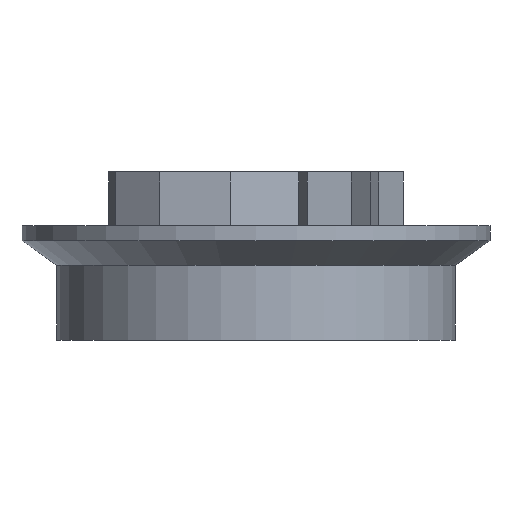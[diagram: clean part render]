
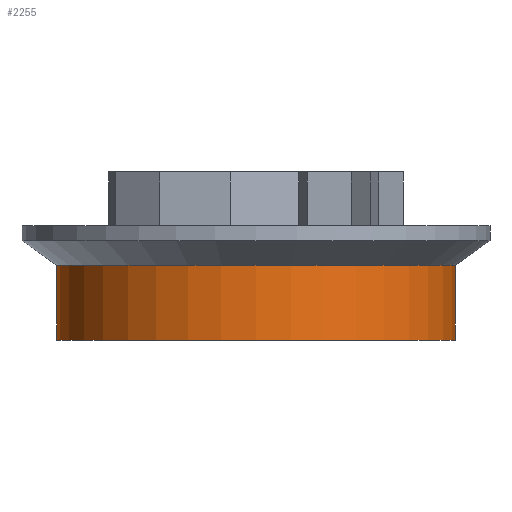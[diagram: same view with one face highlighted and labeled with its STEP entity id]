
A CAD part, front view. The second image highlights one B-rep face of the part: STEP entity #2255.
In plain terms, the highlighted cylindrical face has radius 20 mm (diameter 40 mm), a full revolution.
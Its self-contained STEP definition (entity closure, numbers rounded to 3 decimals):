
#1988 = PLANE('',#1989);
#1989 = AXIS2_PLACEMENT_3D('',#1990,#1991,#1992);
#1990 = CARTESIAN_POINT('',(0.,0.,0.));
#1991 = DIRECTION('',(0.,0.,-1.));
#1992 = DIRECTION('',(1.,0.,0.));
#2043 = CONICAL_SURFACE('',#2044,23.5,0.951);
#2044 = AXIS2_PLACEMENT_3D('',#2045,#2046,#2047);
#2045 = CARTESIAN_POINT('',(0.,0.,10.));
#2046 = DIRECTION('',(-0.,0.,1.));
#2047 = DIRECTION('',(1.,0.,0.));
#2081 = EDGE_CURVE('',#2082,#2082,#2084,.T.);
#2082 = VERTEX_POINT('',#2083);
#2083 = CARTESIAN_POINT('',(20.,0.,0.));
#2084 = SURFACE_CURVE('',#2085,(#2090,#2097),.PCURVE_S1.);
#2085 = CIRCLE('',#2086,20.);
#2086 = AXIS2_PLACEMENT_3D('',#2087,#2088,#2089);
#2087 = CARTESIAN_POINT('',(0.,0.,0.));
#2088 = DIRECTION('',(0.,0.,-1.));
#2089 = DIRECTION('',(1.,0.,0.));
#2090 = PCURVE('',#1988,#2091);
#2091 = DEFINITIONAL_REPRESENTATION('',(#2092),#2096);
#2092 = CIRCLE('',#2093,20.);
#2093 = AXIS2_PLACEMENT_2D('',#2094,#2095);
#2094 = CARTESIAN_POINT('',(0.,0.));
#2095 = DIRECTION('',(1.,0.));
#2096 = ( GEOMETRIC_REPRESENTATION_CONTEXT(2) 
PARAMETRIC_REPRESENTATION_CONTEXT() REPRESENTATION_CONTEXT('2D SPACE',''
  ) );
#2097 = PCURVE('',#2098,#2103);
#2098 = CYLINDRICAL_SURFACE('',#2099,20.);
#2099 = AXIS2_PLACEMENT_3D('',#2100,#2101,#2102);
#2100 = CARTESIAN_POINT('',(0.,0.,7.5));
#2101 = DIRECTION('',(0.,0.,-1.));
#2102 = DIRECTION('',(1.,0.,0.));
#2103 = DEFINITIONAL_REPRESENTATION('',(#2104),#2108);
#2104 = LINE('',#2105,#2106);
#2105 = CARTESIAN_POINT('',(0.,7.5));
#2106 = VECTOR('',#2107,1.);
#2107 = DIRECTION('',(1.,0.));
#2108 = ( GEOMETRIC_REPRESENTATION_CONTEXT(2) 
PARAMETRIC_REPRESENTATION_CONTEXT() REPRESENTATION_CONTEXT('2D SPACE',''
  ) );
#2209 = EDGE_CURVE('',#2210,#2210,#2212,.T.);
#2210 = VERTEX_POINT('',#2211);
#2211 = CARTESIAN_POINT('',(20.,0.,7.5));
#2212 = SURFACE_CURVE('',#2213,(#2218,#2225),.PCURVE_S1.);
#2213 = CIRCLE('',#2214,20.);
#2214 = AXIS2_PLACEMENT_3D('',#2215,#2216,#2217);
#2215 = CARTESIAN_POINT('',(0.,0.,7.5));
#2216 = DIRECTION('',(0.,0.,-1.));
#2217 = DIRECTION('',(1.,0.,0.));
#2218 = PCURVE('',#2043,#2219);
#2219 = DEFINITIONAL_REPRESENTATION('',(#2220),#2224);
#2220 = LINE('',#2221,#2222);
#2221 = CARTESIAN_POINT('',(-0.,-2.5));
#2222 = VECTOR('',#2223,1.);
#2223 = DIRECTION('',(-1.,-0.));
#2224 = ( GEOMETRIC_REPRESENTATION_CONTEXT(2) 
PARAMETRIC_REPRESENTATION_CONTEXT() REPRESENTATION_CONTEXT('2D SPACE',''
  ) );
#2225 = PCURVE('',#2098,#2226);
#2226 = DEFINITIONAL_REPRESENTATION('',(#2227),#2231);
#2227 = LINE('',#2228,#2229);
#2228 = CARTESIAN_POINT('',(0.,0.));
#2229 = VECTOR('',#2230,1.);
#2230 = DIRECTION('',(1.,0.));
#2231 = ( GEOMETRIC_REPRESENTATION_CONTEXT(2) 
PARAMETRIC_REPRESENTATION_CONTEXT() REPRESENTATION_CONTEXT('2D SPACE',''
  ) );
#2255 = ADVANCED_FACE('',(#2256),#2098,.T.);
#2256 = FACE_BOUND('',#2257,.T.);
#2257 = EDGE_LOOP('',(#2258,#2259,#2280,#2281));
#2258 = ORIENTED_EDGE('',*,*,#2081,.F.);
#2259 = ORIENTED_EDGE('',*,*,#2260,.F.);
#2260 = EDGE_CURVE('',#2210,#2082,#2261,.T.);
#2261 = SEAM_CURVE('',#2262,(#2266,#2273),.PCURVE_S1.);
#2262 = LINE('',#2263,#2264);
#2263 = CARTESIAN_POINT('',(20.,0.,7.5));
#2264 = VECTOR('',#2265,1.);
#2265 = DIRECTION('',(0.,0.,-1.));
#2266 = PCURVE('',#2098,#2267);
#2267 = DEFINITIONAL_REPRESENTATION('',(#2268),#2272);
#2268 = LINE('',#2269,#2270);
#2269 = CARTESIAN_POINT('',(6.283,-0.));
#2270 = VECTOR('',#2271,1.);
#2271 = DIRECTION('',(0.,1.));
#2272 = ( GEOMETRIC_REPRESENTATION_CONTEXT(2) 
PARAMETRIC_REPRESENTATION_CONTEXT() REPRESENTATION_CONTEXT('2D SPACE',''
  ) );
#2273 = PCURVE('',#2098,#2274);
#2274 = DEFINITIONAL_REPRESENTATION('',(#2275),#2279);
#2275 = LINE('',#2276,#2277);
#2276 = CARTESIAN_POINT('',(0.,-0.));
#2277 = VECTOR('',#2278,1.);
#2278 = DIRECTION('',(0.,1.));
#2279 = ( GEOMETRIC_REPRESENTATION_CONTEXT(2) 
PARAMETRIC_REPRESENTATION_CONTEXT() REPRESENTATION_CONTEXT('2D SPACE',''
  ) );
#2280 = ORIENTED_EDGE('',*,*,#2209,.T.);
#2281 = ORIENTED_EDGE('',*,*,#2260,.T.);
